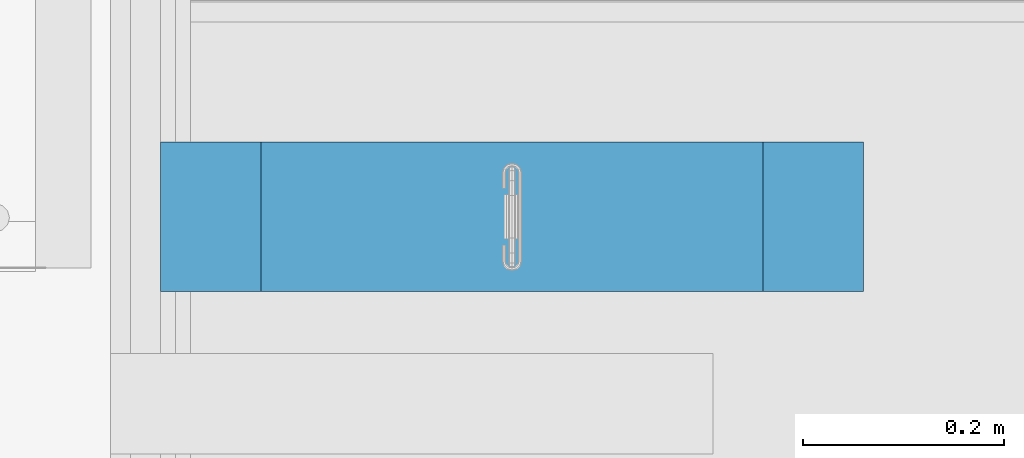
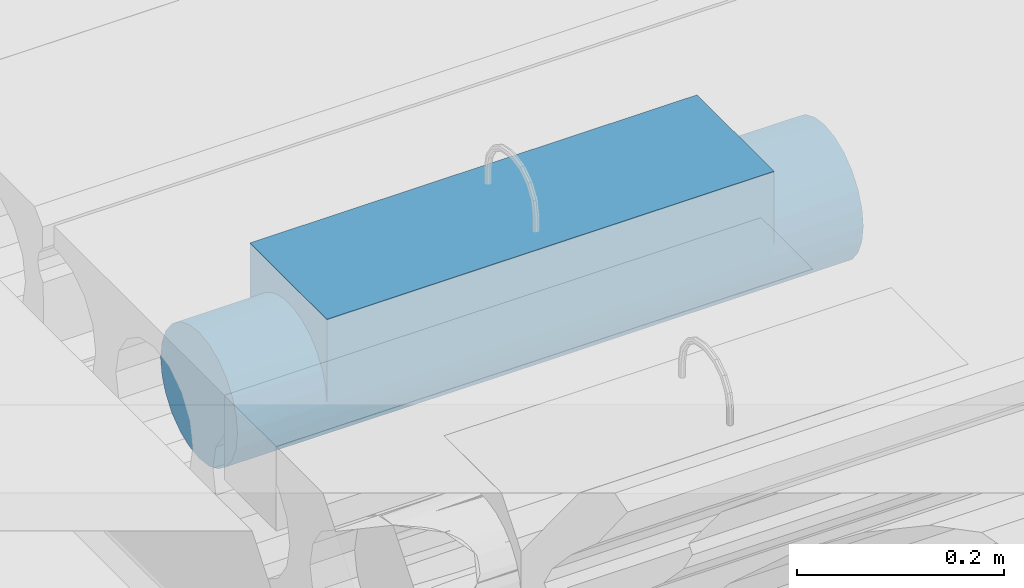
# One storey, part 162 of 230: 1 beam.
"""IFC4X3_ADD2 building model written with IfcOpenShell, lengths in millimetres."""

from ifc_helpers import new_model, si_unit, direction, origin_with_axes, place, context, subcontext, project, spatial, polygons, element, save


model = new_model("IFC4X3_ADD2")

# Units and contexts
model_context = context("Model", 3, precision=1e-05, world=origin_with_axes(), true_north=direction((0.0, 1.0)))
body_context = subcontext(model_context, "Body", "Model", "MODEL_VIEW")
ifc_project = project(units=[si_unit("LENGTHUNIT", "METRE", prefix="MILLI"), si_unit("AREAUNIT", "SQUARE_METRE"), si_unit("VOLUMEUNIT", "CUBIC_METRE"), si_unit("PLANEANGLEUNIT", "RADIAN"), si_unit("TIMEUNIT", "SECOND"), si_unit("MASSUNIT", "GRAM")], contexts=[model_context])

# Site, building, storey
site_placement = place(None, origin_with_axes())
site = spatial("IfcSite", under=ifc_project, at=site_placement, Name="Site", CompositionType="ELEMENT")
building_placement = place(site_placement, origin_with_axes())
building = spatial("IfcBuilding", under=site, at=building_placement, Name="IFC Building Story")
storey_placement = place(building_placement, origin_with_axes())
storey = spatial("IfcBuildingStorey", under=building, at=storey_placement, Name="ETAGE 00 (0)", Elevation=0.0)

# Beam
beam_placement = place(storey_placement, origin_with_axes())
element("IfcBeam", 1, at=beam_placement, inside=storey, Name="ES44", ObjectType="500*149", context=body_context, shape_type="Tessellation", body=[
    polygons([(40931.189, -12605.96145555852, 4119.282009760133), (40831.189, -12606.33514750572, 4117.829005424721), (40931.189, -12608.49998149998, 4099.999990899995), (40931.189, -12598.51887408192, 4137.249990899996), (40831.189, -12599.96645637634, 4134.621865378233), (40831.189, -12576.32080608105, 4161.312288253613), (40931.189, -12586.67943669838, 4152.679446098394), (40931.189, -12571.24998149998, 4164.518883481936), (40831.189, -12560.41804623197, 4169.658700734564), (40931.189, -12553.28200036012, 4171.961464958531), (40831.189, -12589.76403330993, 4149.402627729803), (40831.189, -12608.49998149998, 4099.999987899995), (40831.189, -12542.97996440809, 4173.956801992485), (40931.189, -12533.99998149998, 4174.499990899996), (40831.189, -12525.01999859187, 4173.956801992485), (40931.189, -12514.71796263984, 4171.961464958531), (40931.189, -12496.74998149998, 4164.518883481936), (40831.189, -12507.58191676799, 4169.658700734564), (40931.189, -12469.48108891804, 4137.249990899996), (40931.189, -12462.03850744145, 4119.282009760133), (40831.189, -12468.03350662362, 4134.621865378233), (40831.189, -12478.23592969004, 4149.402627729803), (40931.189, -12481.32052630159, 4152.679446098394), (40831.189, -12491.67915691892, 4161.312288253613), (40831.189, -12461.66481549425, 4117.82900542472), (40931.189, -12459.49998149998, 4099.999990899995), (40831.189, -12459.49998149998, 4099.999987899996), (40331.189, -12459.49998149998, 4199.999987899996), (40331.189, -12608.49998149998, 4199.999987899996), (40831.189, -12608.49998149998, 4199.999987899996), (40831.189, -12459.49998149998, 4199.999987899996), (40331.189, -12459.49998149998, 4099.999987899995), (40331.189, -12461.66481549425, 4117.82900542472), (40331.189, -12468.03350662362, 4134.621865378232), (40331.189, -12478.23592969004, 4149.402627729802), (40331.189, -12491.67915691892, 4161.312288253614), (40331.189, -12507.58191676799, 4169.658700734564), (40331.189, -12525.01999859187, 4173.956801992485), (40331.189, -12542.97996440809, 4173.956801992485), (40331.189, -12560.41804623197, 4169.658700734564), (40331.189, -12576.32080608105, 4161.312288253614), (40331.189, -12589.76403330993, 4149.402627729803), (40331.189, -12599.96645637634, 4134.621865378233), (40331.189, -12606.33514750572, 4117.829005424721), (40331.189, -12608.49998149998, 4099.999987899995), (40231.189, -12469.48108891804, 4062.749990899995), (40231.189, -12481.32052630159, 4047.320535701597), (40231.189, -12496.74998149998, 4035.481098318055), (40231.189, -12514.71796263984, 4028.03851684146), (40231.189, -12533.99998149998, 4025.499990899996), (40231.189, -12553.28200036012, 4028.03851684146), (40231.189, -12571.24998149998, 4035.481098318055), (40231.189, -12586.67943669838, 4047.320535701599), (40231.189, -12598.51887408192, 4062.749990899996), (40231.189, -12605.96145555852, 4080.717972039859), (40231.189, -12608.49998149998, 4099.999990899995), (40231.189, -12605.96145555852, 4119.282009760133), (40231.189, -12598.51887408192, 4137.249990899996), (40231.189, -12586.67943669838, 4152.679446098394), (40231.189, -12571.24998149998, 4164.518883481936), (40231.189, -12553.28200036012, 4171.961464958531), (40231.189, -12533.99998149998, 4174.499990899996), (40231.189, -12514.71796263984, 4171.961464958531), (40231.189, -12496.74998149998, 4164.518883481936), (40231.189, -12481.32052630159, 4152.679446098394), (40231.189, -12469.48108891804, 4137.249990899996), (40231.189, -12462.03850744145, 4119.282009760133), (40231.189, -12459.49998149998, 4099.999990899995), (40231.189, -12462.03850744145, 4080.717972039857), (40931.189, -12598.51887408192, 4062.749990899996), (40931.189, -12586.67943669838, 4047.320535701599), (40931.189, -12571.24998149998, 4035.481098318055), (40931.189, -12553.28200036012, 4028.03851684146), (40931.189, -12533.99998149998, 4025.499990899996), (40931.189, -12514.71796263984, 4028.03851684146), (40931.189, -12496.74998149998, 4035.481098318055), (40931.189, -12481.32052630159, 4047.320535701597), (40931.189, -12469.48108891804, 4062.749990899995), (40931.189, -12462.03850744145, 4080.717972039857), (40931.189, -12605.96145555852, 4080.717972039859), (40581.189, -12465.17095632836, 4071.490075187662), (40581.189, -12505.49006578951, 4031.170965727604), (40581.189, -12488.64725503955, 4040.89516704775), (40581.189, -12474.89515764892, 4054.647264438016), (40581.189, -12524.27578018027, 4026.137348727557), (40581.189, -12460.68332841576, 4086.774319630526), (40581.189, -12543.72418282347, 4026.137348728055), (40581.189, -12562.50989721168, 4031.170965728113), (40581.189, -12607.31663458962, 4086.774319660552), (40581.189, -12579.35270796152, 4040.895167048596), (40581.189, -12593.10480535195, 4054.647264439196), (40581.189, -12602.82900667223, 4071.490075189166)], [[[1, 2, 3]], [[4, 5, 1]], [[6, 7, 8]], [[9, 8, 10]], [[7, 11, 4]], [[1, 5, 2]], [[2, 12, 3]], [[6, 11, 7]], [[9, 6, 8]], [[10, 13, 9]], [[11, 5, 4]], [[10, 14, 13]], [[15, 14, 16]], [[17, 18, 16]], [[19, 20, 21]], [[22, 23, 19]], [[24, 17, 23]], [[25, 20, 26]], [[16, 18, 15]], [[17, 24, 18]], [[23, 22, 24]], [[19, 21, 22]], [[25, 21, 20]], [[26, 27, 25]], [[14, 15, 13]], [[28, 29, 30, 31]], [[44, 45, 29]], [[29, 43, 44]], [[29, 42, 43]], [[29, 41, 42]], [[29, 40, 41]], [[29, 39, 40]], [[29, 28, 38]], [[29, 38, 39]], [[28, 37, 38]], [[28, 36, 37]], [[28, 35, 36]], [[28, 34, 35]], [[28, 33, 34]], [[28, 32, 33]], [[30, 29, 45, 12]], [[25, 27, 31]], [[31, 21, 25]], [[31, 22, 21]], [[31, 24, 22]], [[31, 18, 24]], [[31, 15, 18]], [[31, 30, 13]], [[31, 13, 15]], [[30, 9, 13]], [[30, 6, 9]], [[30, 11, 6]], [[30, 5, 11]], [[30, 2, 5]], [[30, 12, 2]], [[28, 31, 27, 32]], [[46, 47, 48]], [[46, 48, 49]], [[46, 49, 50]], [[46, 50, 51]], [[46, 51, 52]], [[46, 52, 53]], [[46, 53, 54]], [[46, 54, 55]], [[46, 55, 56]], [[46, 56, 57]], [[46, 57, 58]], [[46, 58, 59]], [[46, 59, 60]], [[46, 60, 61]], [[46, 61, 62]], [[46, 62, 63]], [[46, 63, 64]], [[46, 64, 65]], [[46, 65, 66]], [[46, 66, 67]], [[46, 67, 68]], [[46, 68, 69]], [[70, 71, 72]], [[70, 72, 73]], [[70, 73, 74]], [[70, 74, 75]], [[70, 75, 76]], [[70, 76, 77]], [[70, 77, 78]], [[70, 78, 79]], [[70, 79, 26]], [[70, 26, 20]], [[70, 20, 19]], [[70, 19, 23]], [[70, 23, 17]], [[70, 17, 16]], [[70, 16, 14]], [[70, 14, 10]], [[70, 10, 8]], [[70, 8, 7]], [[70, 7, 4]], [[70, 4, 1]], [[70, 1, 3]], [[70, 3, 80]], [[43, 57, 44]], [[42, 58, 43]], [[40, 60, 41]], [[42, 41, 59]], [[61, 40, 39]], [[44, 56, 45]], [[44, 57, 56]], [[58, 42, 59]], [[41, 60, 59]], [[57, 43, 58]], [[40, 61, 60]], [[39, 62, 61]], [[37, 36, 64]], [[38, 37, 63]], [[35, 34, 66]], [[33, 32, 68]], [[34, 33, 67]], [[36, 35, 65]], [[37, 64, 63]], [[63, 62, 38]], [[64, 36, 65]], [[35, 66, 65]], [[67, 66, 34]], [[67, 33, 68]], [[38, 62, 39]], [[27, 26, 79]], [[78, 81, 79]], [[76, 75, 82]], [[83, 77, 76]], [[84, 78, 77]], [[85, 75, 74]], [[27, 86, 32]], [[86, 81, 69]], [[84, 83, 47]], [[69, 68, 32]], [[81, 86, 79]], [[83, 76, 82]], [[81, 84, 46]], [[46, 69, 81]], [[82, 85, 49]], [[47, 46, 84]], [[47, 83, 48]], [[85, 74, 87]], [[49, 48, 82]], [[84, 77, 83]], [[50, 49, 85]], [[83, 82, 48]], [[72, 88, 73]], [[12, 89, 80]], [[27, 79, 86]], [[71, 90, 72]], [[80, 3, 12]], [[87, 50, 85]], [[71, 70, 91]], [[80, 92, 70]], [[82, 75, 85]], [[88, 87, 73]], [[32, 86, 69]], [[89, 12, 45]], [[87, 88, 51]], [[88, 52, 51]], [[88, 90, 52]], [[52, 90, 53]], [[51, 50, 87]], [[90, 71, 91]], [[55, 54, 92]], [[53, 91, 54]], [[92, 80, 89]], [[56, 55, 45]], [[81, 78, 84]], [[90, 91, 53]], [[55, 92, 89]], [[91, 70, 92]], [[91, 92, 54]], [[87, 74, 73]], [[45, 55, 89]], [[88, 72, 90]]]),
])

save(model, "model.ifc")
